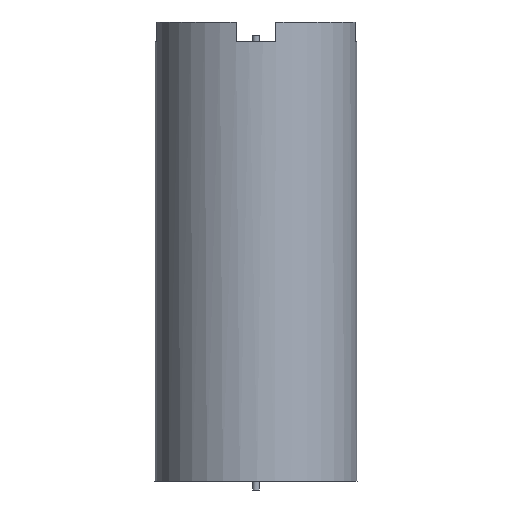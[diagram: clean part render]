
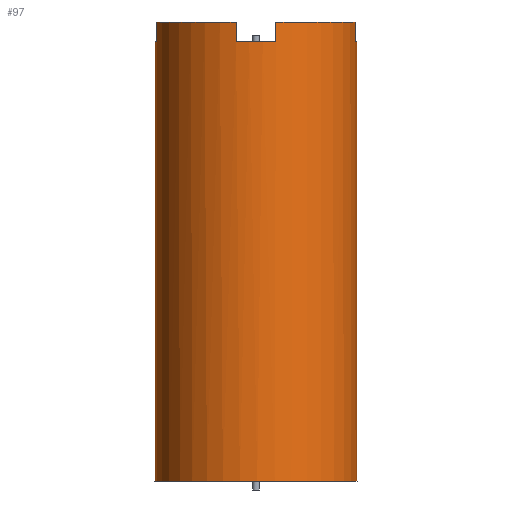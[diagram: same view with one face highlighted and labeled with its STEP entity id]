
A CAD part, front view. The second image highlights one B-rep face of the part: STEP entity #97.
In plain terms, the highlighted cylindrical face has radius 152.5 mm (diameter 305 mm), a full revolution.
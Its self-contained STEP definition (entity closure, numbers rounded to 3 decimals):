
#97 = ADVANCED_FACE( '', ( #208, #209 ), #210, .T. );
#208 = FACE_OUTER_BOUND( '', #329, .T. );
#209 = FACE_OUTER_BOUND( '', #330, .T. );
#210 = CYLINDRICAL_SURFACE( '', #331, 152.5 );
#329 = EDGE_LOOP( '', ( #545, #546, #547, #548, #549, #550, #551, #552, #553, #554, #555, #556, #557, #558, #559, #560 ) );
#330 = EDGE_LOOP( '', ( #561 ) );
#331 = AXIS2_PLACEMENT_3D( '', #562, #563, #564 );
#545 = ORIENTED_EDGE( '', *, *, #788, .F. );
#546 = ORIENTED_EDGE( '', *, *, #704, .T. );
#547 = ORIENTED_EDGE( '', *, *, #756, .F. );
#548 = ORIENTED_EDGE( '', *, *, #789, .F. );
#549 = ORIENTED_EDGE( '', *, *, #790, .F. );
#550 = ORIENTED_EDGE( '', *, *, #791, .T. );
#551 = ORIENTED_EDGE( '', *, *, #713, .F. );
#552 = ORIENTED_EDGE( '', *, *, #792, .F. );
#553 = ORIENTED_EDGE( '', *, *, #740, .F. );
#554 = ORIENTED_EDGE( '', *, *, #753, .T. );
#555 = ORIENTED_EDGE( '', *, *, #727, .F. );
#556 = ORIENTED_EDGE( '', *, *, #724, .F. );
#557 = ORIENTED_EDGE( '', *, *, #777, .F. );
#558 = ORIENTED_EDGE( '', *, *, #749, .T. );
#559 = ORIENTED_EDGE( '', *, *, #793, .F. );
#560 = ORIENTED_EDGE( '', *, *, #785, .F. );
#561 = ORIENTED_EDGE( '', *, *, #794, .T. );
#562 = CARTESIAN_POINT( '', ( 0., 0., 693. ) );
#563 = DIRECTION( '', ( 0., 0., 1. ) );
#564 = DIRECTION( '', ( -1., 0., 0. ) );
#704 = EDGE_CURVE( '', #832, #830, #833, .T. );
#713 = EDGE_CURVE( '', #845, #848, #849, .T. );
#724 = EDGE_CURVE( '', #866, #868, #869, .T. );
#727 = EDGE_CURVE( '', #868, #872, #873, .T. );
#740 = EDGE_CURVE( '', #893, #895, #896, .T. );
#749 = EDGE_CURVE( '', #911, #909, #912, .T. );
#753 = EDGE_CURVE( '', #893, #872, #916, .T. );
#756 = EDGE_CURVE( '', #918, #830, #921, .T. );
#777 = EDGE_CURVE( '', #911, #866, #953, .T. );
#785 = EDGE_CURVE( '', #962, #964, #965, .T. );
#788 = EDGE_CURVE( '', #832, #962, #968, .T. );
#789 = EDGE_CURVE( '', #969, #918, #970, .T. );
#790 = EDGE_CURVE( '', #971, #969, #972, .T. );
#791 = EDGE_CURVE( '', #971, #848, #973, .T. );
#792 = EDGE_CURVE( '', #895, #845, #974, .T. );
#793 = EDGE_CURVE( '', #964, #909, #975, .T. );
#794 = EDGE_CURVE( '', #976, #976, #977, .T. );
#830 = VERTEX_POINT( '', #1018 );
#832 = VERTEX_POINT( '', #1021 );
#833 = LINE( '', #1022, #1023 );
#845 = VERTEX_POINT( '', #1040 );
#848 = VERTEX_POINT( '', #1044 );
#849 = CIRCLE( '', #1045, 152.5 );
#866 = VERTEX_POINT( '', #1067 );
#868 = VERTEX_POINT( '', #1070 );
#869 = LINE( '', #1071, #1072 );
#872 = VERTEX_POINT( '', #1076 );
#873 = CIRCLE( '', #1077, 152.5 );
#893 = VERTEX_POINT( '', #1102 );
#895 = VERTEX_POINT( '', #1105 );
#896 = CIRCLE( '', #1106, 152.5 );
#909 = VERTEX_POINT( '', #1121 );
#911 = VERTEX_POINT( '', #1124 );
#912 = LINE( '', #1125, #1126 );
#916 = LINE( '', #1132, #1133 );
#918 = VERTEX_POINT( '', #1135 );
#921 = CIRCLE( '', #1139, 152.5 );
#953 = CIRCLE( '', #1179, 152.5 );
#962 = VERTEX_POINT( '', #1191 );
#964 = VERTEX_POINT( '', #1194 );
#965 = LINE( '', #1195, #1196 );
#968 = CIRCLE( '', #1200, 152.5 );
#969 = VERTEX_POINT( '', #1201 );
#970 = LINE( '', #1202, #1203 );
#971 = VERTEX_POINT( '', #1204 );
#972 = CIRCLE( '', #1205, 152.5 );
#973 = LINE( '', #1206, #1207 );
#974 = LINE( '', #1208, #1209 );
#975 = CIRCLE( '', #1210, 152.5 );
#976 = VERTEX_POINT( '', #1211 );
#977 = CIRCLE( '', #1212, 152.5 );
#1018 = CARTESIAN_POINT( '', ( 30., 149.52, 693. ) );
#1021 = CARTESIAN_POINT( '', ( 30., 149.52, 663. ) );
#1022 = CARTESIAN_POINT( '', ( 30., 149.52, 663. ) );
#1023 = VECTOR( '', #1266, 1000. );
#1040 = CARTESIAN_POINT( '', ( 30., -149.52, 693. ) );
#1044 = CARTESIAN_POINT( '', ( 149.52, -30., 693. ) );
#1045 = AXIS2_PLACEMENT_3D( '', #1273, #1274, #1275 );
#1067 = CARTESIAN_POINT( '', ( -149.52, -30., 663. ) );
#1070 = CARTESIAN_POINT( '', ( -149.52, -30., 693. ) );
#1071 = CARTESIAN_POINT( '', ( -149.52, -30., 663. ) );
#1072 = VECTOR( '', #1288, 1000. );
#1076 = CARTESIAN_POINT( '', ( -30., -149.52, 693. ) );
#1077 = AXIS2_PLACEMENT_3D( '', #1290, #1291, #1292 );
#1102 = CARTESIAN_POINT( '', ( -30., -149.52, 663. ) );
#1105 = CARTESIAN_POINT( '', ( 30., -149.52, 663. ) );
#1106 = AXIS2_PLACEMENT_3D( '', #1308, #1309, #1310 );
#1121 = CARTESIAN_POINT( '', ( -149.52, 30., 693. ) );
#1124 = CARTESIAN_POINT( '', ( -149.52, 30., 663. ) );
#1125 = CARTESIAN_POINT( '', ( -149.52, 30., 663. ) );
#1126 = VECTOR( '', #1323, 1000. );
#1132 = CARTESIAN_POINT( '', ( -30., -149.52, 663. ) );
#1133 = VECTOR( '', #1326, 1000. );
#1135 = CARTESIAN_POINT( '', ( 149.52, 30., 693. ) );
#1139 = AXIS2_PLACEMENT_3D( '', #1328, #1329, #1330 );
#1179 = AXIS2_PLACEMENT_3D( '', #1366, #1367, #1368 );
#1191 = CARTESIAN_POINT( '', ( -30., 149.52, 663. ) );
#1194 = CARTESIAN_POINT( '', ( -30., 149.52, 693. ) );
#1195 = CARTESIAN_POINT( '', ( -30., 149.52, 663. ) );
#1196 = VECTOR( '', #1373, 1000. );
#1200 = AXIS2_PLACEMENT_3D( '', #1375, #1376, #1377 );
#1201 = CARTESIAN_POINT( '', ( 149.52, 30., 663. ) );
#1202 = CARTESIAN_POINT( '', ( 149.52, 30., 663. ) );
#1203 = VECTOR( '', #1378, 1000. );
#1204 = CARTESIAN_POINT( '', ( 149.52, -30., 663. ) );
#1205 = AXIS2_PLACEMENT_3D( '', #1379, #1380, #1381 );
#1206 = CARTESIAN_POINT( '', ( 149.52, -30., 663. ) );
#1207 = VECTOR( '', #1382, 1000. );
#1208 = CARTESIAN_POINT( '', ( 30., -149.52, 663. ) );
#1209 = VECTOR( '', #1383, 1000. );
#1210 = AXIS2_PLACEMENT_3D( '', #1384, #1385, #1386 );
#1211 = CARTESIAN_POINT( '', ( 152.5, 0., 0. ) );
#1212 = AXIS2_PLACEMENT_3D( '', #1387, #1388, #1389 );
#1266 = DIRECTION( '', ( 0., 0., 1. ) );
#1273 = CARTESIAN_POINT( '', ( 0., 0., 693. ) );
#1274 = DIRECTION( '', ( 0., 0., 1. ) );
#1275 = DIRECTION( '', ( 1., 0., 0. ) );
#1288 = DIRECTION( '', ( 0., 0., 1. ) );
#1290 = CARTESIAN_POINT( '', ( 0., 0., 693. ) );
#1291 = DIRECTION( '', ( 0., 0., 1. ) );
#1292 = DIRECTION( '', ( 1., 0., 0. ) );
#1308 = CARTESIAN_POINT( '', ( 0., 0., 663. ) );
#1309 = DIRECTION( '', ( 0., 0., 1. ) );
#1310 = DIRECTION( '', ( 1., 0., 0. ) );
#1323 = DIRECTION( '', ( 0., 0., 1. ) );
#1326 = DIRECTION( '', ( 0., 0., 1. ) );
#1328 = CARTESIAN_POINT( '', ( 0., 0., 693. ) );
#1329 = DIRECTION( '', ( 0., 0., 1. ) );
#1330 = DIRECTION( '', ( 1., 0., 0. ) );
#1366 = CARTESIAN_POINT( '', ( 0., 0., 663. ) );
#1367 = DIRECTION( '', ( 0., 0., 1. ) );
#1368 = DIRECTION( '', ( 1., 0., 0. ) );
#1373 = DIRECTION( '', ( 0., 0., 1. ) );
#1375 = CARTESIAN_POINT( '', ( 0., 0., 663. ) );
#1376 = DIRECTION( '', ( 0., 0., 1. ) );
#1377 = DIRECTION( '', ( 1., 0., 0. ) );
#1378 = DIRECTION( '', ( 0., 0., 1. ) );
#1379 = CARTESIAN_POINT( '', ( 0., 0., 663. ) );
#1380 = DIRECTION( '', ( 0., 0., 1. ) );
#1381 = DIRECTION( '', ( 1., 0., 0. ) );
#1382 = DIRECTION( '', ( 0., 0., 1. ) );
#1383 = DIRECTION( '', ( 0., 0., 1. ) );
#1384 = CARTESIAN_POINT( '', ( 0., 0., 693. ) );
#1385 = DIRECTION( '', ( 0., 0., 1. ) );
#1386 = DIRECTION( '', ( 1., 0., 0. ) );
#1387 = CARTESIAN_POINT( '', ( 0., 0., 0. ) );
#1388 = DIRECTION( '', ( 0., 0., 1. ) );
#1389 = DIRECTION( '', ( 1., 0., 0. ) );
